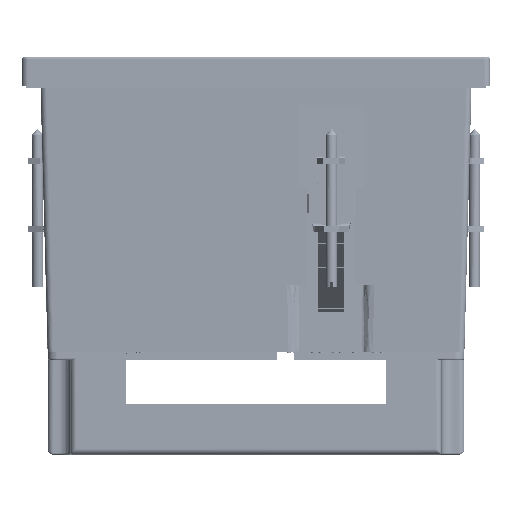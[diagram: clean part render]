
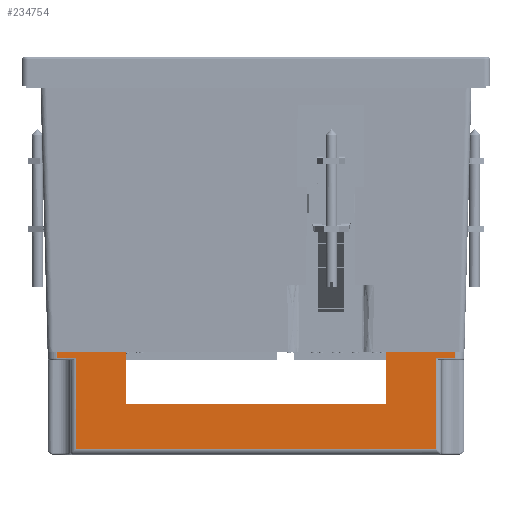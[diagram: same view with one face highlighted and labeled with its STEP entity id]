
A CAD part, front view. The second image highlights one B-rep face of the part: STEP entity #234754.
In plain terms, the highlighted planar face has unit normal (0, -1, 0) as drawn and (1, 0, 0) by its records, which use the part's own axes.
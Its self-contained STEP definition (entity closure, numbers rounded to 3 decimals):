
#2826 = CARTESIAN_POINT ( 'NONE',  ( 53., 50.5, 0. ) ) ;
#3928 = FACE_OUTER_BOUND ( 'NONE', #20346, .T. ) ;
#7057 = LINE ( 'NONE', #160449, #73448 ) ;
#8606 = VECTOR ( 'NONE', #244042, 1000. ) ;
#10598 = EDGE_CURVE ( 'NONE', #124259, #95609, #121033, .T. ) ;
#13595 = CARTESIAN_POINT ( 'NONE',  ( 53., 45.668, 1.66 ) ) ;
#17446 = VERTEX_POINT ( 'NONE', #148846 ) ;
#18110 = ORIENTED_EDGE ( 'NONE', *, *, #188596, .T. ) ;
#19637 = VERTEX_POINT ( 'NONE', #189207 ) ;
#20346 = EDGE_LOOP ( 'NONE', ( #245954, #212979, #238188, #109396, #119076, #242814, #85510, #153725, #124101, #71572, #93228, #18110 ) ) ;
#21536 = VERTEX_POINT ( 'NONE', #83376 ) ;
#24385 = CARTESIAN_POINT ( 'NONE',  ( 53., -33.15, 13.4 ) ) ;
#31668 = DIRECTION ( 'NONE',  ( 0., 1., 0. ) ) ;
#31728 = VERTEX_POINT ( 'NONE', #164447 ) ;
#43185 = DIRECTION ( 'NONE',  ( 0., 0., -1. ) ) ;
#51275 = CARTESIAN_POINT ( 'NONE',  ( 53., -33.15, 0. ) ) ;
#54525 = VERTEX_POINT ( 'NONE', #197828 ) ;
#56123 = EDGE_CURVE ( 'NONE', #54525, #31728, #85551, .T. ) ;
#62644 = EDGE_CURVE ( 'NONE', #226043, #17446, #102331, .T. ) ;
#64765 = EDGE_CURVE ( 'NONE', #21536, #19637, #207189, .T. ) ;
#64891 = DIRECTION ( 'NONE',  ( 0., 0., -1. ) ) ;
#66847 = CARTESIAN_POINT ( 'NONE',  ( 53., 50.5, 0. ) ) ;
#68854 = DIRECTION ( 'NONE',  ( 0., 0., -1. ) ) ;
#69404 = EDGE_CURVE ( 'NONE', #194450, #192352, #7057, .T. ) ;
#71572 = ORIENTED_EDGE ( 'NONE', *, *, #197130, .T. ) ;
#73304 = CARTESIAN_POINT ( 'NONE',  ( 53., 50.5, 0. ) ) ;
#73448 = VECTOR ( 'NONE', #64891, 1000. ) ;
#75029 = AXIS2_PLACEMENT_3D ( 'NONE', #217729, #198861, #215244 ) ;
#83376 = CARTESIAN_POINT ( 'NONE',  ( 53., -45.668, 24.7 ) ) ;
#85510 = ORIENTED_EDGE ( 'NONE', *, *, #56123, .F. ) ;
#85551 = LINE ( 'NONE', #164787, #8606 ) ;
#90171 = CARTESIAN_POINT ( 'NONE',  ( 53., 50.5, 26.2 ) ) ;
#91417 = LINE ( 'NONE', #90171, #192205 ) ;
#91776 = VECTOR ( 'NONE', #241136, 1000. ) ;
#92825 = VECTOR ( 'NONE', #245947, 1000. ) ;
#93147 = VECTOR ( 'NONE', #221838, 1000. ) ;
#93228 = ORIENTED_EDGE ( 'NONE', *, *, #62644, .T. ) ;
#95609 = VERTEX_POINT ( 'NONE', #51275 ) ;
#102331 = LINE ( 'NONE', #239433, #155128 ) ;
#109396 = ORIENTED_EDGE ( 'NONE', *, *, #109595, .T. ) ;
#109595 = EDGE_CURVE ( 'NONE', #192352, #95609, #125896, .T. ) ;
#109769 = VECTOR ( 'NONE', #43185, 1000. ) ;
#113502 = CARTESIAN_POINT ( 'NONE',  ( 53., 50.5, 24.7 ) ) ;
#115497 = VECTOR ( 'NONE', #214372, 1000. ) ;
#119076 = ORIENTED_EDGE ( 'NONE', *, *, #10598, .F. ) ;
#120355 = LINE ( 'NONE', #180797, #179028 ) ;
#121033 = LINE ( 'NONE', #24385, #109769 ) ;
#124101 = ORIENTED_EDGE ( 'NONE', *, *, #149758, .F. ) ;
#124259 = VERTEX_POINT ( 'NONE', #143515 ) ;
#125896 = LINE ( 'NONE', #66847, #240548 ) ;
#143515 = CARTESIAN_POINT ( 'NONE',  ( 53., -33.15, 13.4 ) ) ;
#148846 = CARTESIAN_POINT ( 'NONE',  ( 53., 45.668, 24.7 ) ) ;
#149758 = EDGE_CURVE ( 'NONE', #220665, #209348, #91417, .T. ) ;
#150417 = CARTESIAN_POINT ( 'NONE',  ( 53., -45.668, 26.2 ) ) ;
#153725 = ORIENTED_EDGE ( 'NONE', *, *, #189635, .T. ) ;
#155128 = VECTOR ( 'NONE', #238239, 1000. ) ;
#160449 = CARTESIAN_POINT ( 'NONE',  ( 53., -50.5, 26.2 ) ) ;
#164447 = CARTESIAN_POINT ( 'NONE',  ( 53., 33.15, 13.4 ) ) ;
#164787 = CARTESIAN_POINT ( 'NONE',  ( 53., 33.15, 13.4 ) ) ;
#179028 = VECTOR ( 'NONE', #197213, 1000. ) ;
#179224 = EDGE_CURVE ( 'NONE', #31728, #124259, #204522, .T. ) ;
#180797 = CARTESIAN_POINT ( 'NONE',  ( 53., -50.5, 1.66 ) ) ;
#184009 = EDGE_CURVE ( 'NONE', #19637, #194450, #120355, .T. ) ;
#188596 = EDGE_CURVE ( 'NONE', #17446, #21536, #189122, .T. ) ;
#189122 = LINE ( 'NONE', #113502, #204986 ) ;
#189207 = CARTESIAN_POINT ( 'NONE',  ( 53., -45.668, 1.66 ) ) ;
#189635 = EDGE_CURVE ( 'NONE', #54525, #209348, #223087, .T. ) ;
#191357 = CARTESIAN_POINT ( 'NONE',  ( 53., -50.5, 1.66 ) ) ;
#192205 = VECTOR ( 'NONE', #68854, 1000. ) ;
#192352 = VERTEX_POINT ( 'NONE', #206906 ) ;
#194450 = VERTEX_POINT ( 'NONE', #191357 ) ;
#195689 = CARTESIAN_POINT ( 'NONE',  ( 53., 50.5, 1.66 ) ) ;
#197130 = EDGE_CURVE ( 'NONE', #220665, #226043, #232004, .T. ) ;
#197213 = DIRECTION ( 'NONE',  ( 0., -1., 0. ) ) ;
#197828 = CARTESIAN_POINT ( 'NONE',  ( 53., 33.15, 0. ) ) ;
#198861 = DIRECTION ( 'NONE',  ( -1., 0., 0. ) ) ;
#204522 = LINE ( 'NONE', #244704, #92825 ) ;
#204986 = VECTOR ( 'NONE', #243195, 1000. ) ;
#206906 = CARTESIAN_POINT ( 'NONE',  ( 53., -50.5, 0. ) ) ;
#207189 = LINE ( 'NONE', #150417, #91776 ) ;
#209348 = VERTEX_POINT ( 'NONE', #2826 ) ;
#212979 = ORIENTED_EDGE ( 'NONE', *, *, #184009, .T. ) ;
#214372 = DIRECTION ( 'NONE',  ( 0., -1., 0. ) ) ;
#215244 = DIRECTION ( 'NONE',  ( 0., -1., 0. ) ) ;
#217729 = CARTESIAN_POINT ( 'NONE',  ( 53., 50.5, 26.2 ) ) ;
#220665 = VERTEX_POINT ( 'NONE', #195689 ) ;
#221838 = DIRECTION ( 'NONE',  ( 0., 1., 0. ) ) ;
#223087 = LINE ( 'NONE', #73304, #93147 ) ;
#226043 = VERTEX_POINT ( 'NONE', #13595 ) ;
#230764 = CARTESIAN_POINT ( 'NONE',  ( 53., 45.668, 1.66 ) ) ;
#232004 = LINE ( 'NONE', #230764, #115497 ) ;
#234754 = ADVANCED_FACE ( 'NONE', ( #3928 ), #236597, .F. ) ;
#236597 = PLANE ( 'NONE',  #75029 ) ;
#238188 = ORIENTED_EDGE ( 'NONE', *, *, #69404, .T. ) ;
#238239 = DIRECTION ( 'NONE',  ( 0., 0., 1. ) ) ;
#239433 = CARTESIAN_POINT ( 'NONE',  ( 53., 45.668, 26.2 ) ) ;
#240548 = VECTOR ( 'NONE', #31668, 1000. ) ;
#241136 = DIRECTION ( 'NONE',  ( 0., 0., -1. ) ) ;
#242814 = ORIENTED_EDGE ( 'NONE', *, *, #179224, .F. ) ;
#243195 = DIRECTION ( 'NONE',  ( 0., -1., 0. ) ) ;
#244042 = DIRECTION ( 'NONE',  ( 0., 0., 1. ) ) ;
#244704 = CARTESIAN_POINT ( 'NONE',  ( 53., -33.15, 13.4 ) ) ;
#245947 = DIRECTION ( 'NONE',  ( 0., -1., 0. ) ) ;
#245954 = ORIENTED_EDGE ( 'NONE', *, *, #64765, .T. ) ;
